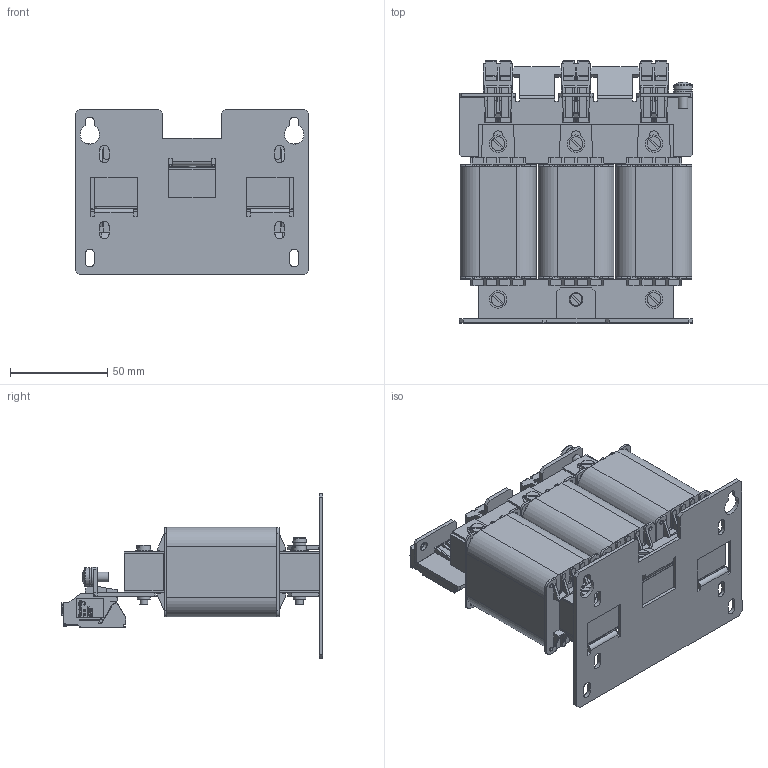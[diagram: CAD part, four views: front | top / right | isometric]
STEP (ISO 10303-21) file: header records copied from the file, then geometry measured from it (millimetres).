
FILE_DESCRIPTION (( 'STEP AP214' ), '1' );
FILE_NAME ('PCT-010.STEP', '2015-04-28T09:50:47', ( 'EDV' ), ( 'Microsoft' ), 'SwSTEP 2.0', 'SolidWorks 2014', '' );
FILE_SCHEMA (( 'AUTOMOTIVE_DESIGN' ));
Length unit declared in the file: millimetre
Products named in the file (14): BTK 4_2 +2202-0006; M4x28-DIN84; Slotted Cheese Head Screw_DIN_ISO 1207 - M4 x 16 --- 16N; Plain Washer Grade A_DIN_Washer DIN 125 - A 4.3; Plain Washer Grade A_DIN_Washer DIN 125 - A 5.3; Curved Spring Lock Washer_DIN_Spring washer DIN 128 - A5; Pan Head Cross Recess Screw_DIN_ISO 7045 - M5 x 10 - Z --- 10N; #080-0544; WickelUI60_1oD; UI60-21oD; 3UI60-19; #144-0146; #040-0872_#040-1671; PCT-010
Assembly tree (28 placements, depth 2):
  PCT-010
    #040-0872_#040-1671
    #144-0146  x2
    3UI60-19
    UI60-21oD  x3
    WickelUI60_1oD  x3
    #080-0544
    Pan Head Cross Recess Screw_DIN_ISO 7045 - M5 x 10 - Z --- 10N
    Curved Spring Lock Washer_DIN_Spring washer DIN 128 - A5
    Plain Washer Grade A_DIN_Washer DIN 125 - A 5.3
    Plain Washer Grade A_DIN_Washer DIN 125 - A 4.3  x5
    Slotted Cheese Head Screw_DIN_ISO 1207 - M4 x 16 --- 16N
    M4x28-DIN84  x5
    BTK 4_2 +2202-0006  x3
Bounding box: 120 x 134.5 x 85 mm (x, y, z)
Volume: 426251.3 mm3; surface area: 208930.4 mm2
Topology: 29 solids, 29 shells, 6510 faces, 18104 edges, 11784 vertices
Faces by surface type: plane 5230, cylinder 923, bspline 300, torus 45, cone 11, sphere 1
Full cylindrical faces by diameter (mm): 2.3 x24, 2.879 x1, 3.7 x6, 4 x6, 4.3 x5, 4.5 x12, 4.6 x2, 5 x1, 5.3 x1, 6.5 x6, 7 x5, 9 x5, 9.5 x1, 10 x1
Entity records: 91777 total; most frequent: CARTESIAN_POINT 22246, ORIENTED_EDGE 14512, DIRECTION 12620, EDGE_CURVE 7256, LINE 6140, VECTOR 6140, VERTEX_POINT 4747, AXIS2_PLACEMENT_3D 3240
